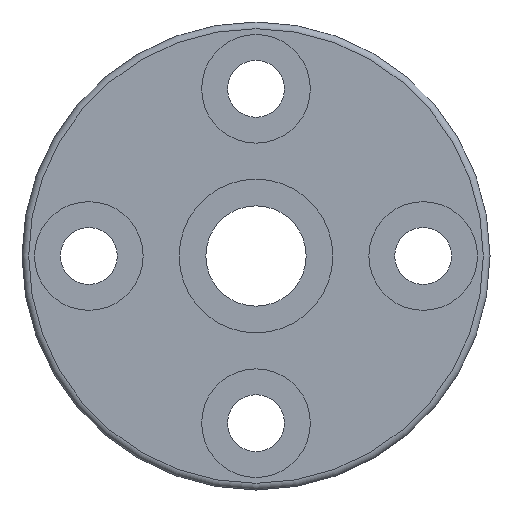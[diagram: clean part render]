
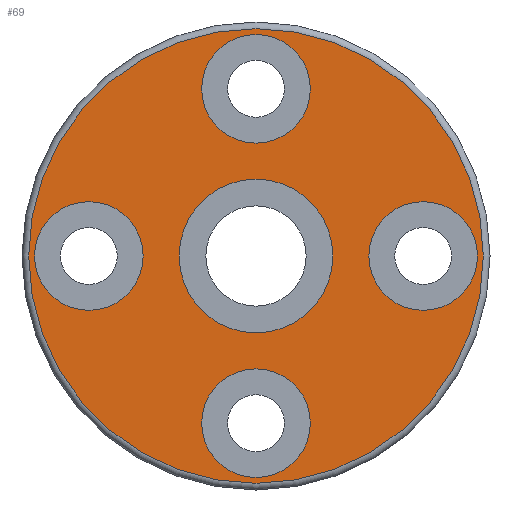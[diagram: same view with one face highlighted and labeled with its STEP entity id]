
A CAD part, left-side view. The second image highlights one B-rep face of the part: STEP entity #69.
In plain terms, the highlighted planar face has unit normal (-1, 0, 0).
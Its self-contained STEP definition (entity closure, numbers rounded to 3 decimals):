
#69 = ADVANCED_FACE( '', ( #162, #163, #164, #165, #166, #167 ), #168, .T. );
#162 = FACE_BOUND( '', #285, .T. );
#163 = FACE_BOUND( '', #286, .T. );
#164 = FACE_BOUND( '', #287, .T. );
#165 = FACE_BOUND( '', #288, .T. );
#166 = FACE_BOUND( '', #289, .T. );
#167 = FACE_OUTER_BOUND( '', #290, .T. );
#168 = PLANE( '', #291 );
#285 = EDGE_LOOP( '', ( #420 ) );
#286 = EDGE_LOOP( '', ( #421 ) );
#287 = EDGE_LOOP( '', ( #422 ) );
#288 = EDGE_LOOP( '', ( #423 ) );
#289 = EDGE_LOOP( '', ( #424 ) );
#290 = EDGE_LOOP( '', ( #425 ) );
#291 = AXIS2_PLACEMENT_3D( '', #426, #427, #428 );
#420 = ORIENTED_EDGE( '', *, *, #559, .T. );
#421 = ORIENTED_EDGE( '', *, *, #560, .T. );
#422 = ORIENTED_EDGE( '', *, *, #561, .T. );
#423 = ORIENTED_EDGE( '', *, *, #562, .T. );
#424 = ORIENTED_EDGE( '', *, *, #563, .F. );
#425 = ORIENTED_EDGE( '', *, *, #556, .T. );
#426 = CARTESIAN_POINT( '', ( 0., 9.2, 0. ) );
#427 = DIRECTION( '', ( -1., 0., 0. ) );
#428 = DIRECTION( '', ( 0., 1., 0. ) );
#556 = EDGE_CURVE( '', #630, #630, #631, .T. );
#559 = EDGE_CURVE( '', #635, #635, #636, .T. );
#560 = EDGE_CURVE( '', #637, #637, #638, .T. );
#561 = EDGE_CURVE( '', #639, #639, #640, .T. );
#562 = EDGE_CURVE( '', #641, #641, #642, .T. );
#563 = EDGE_CURVE( '', #643, #643, #644, .T. );
#630 = VERTEX_POINT( '', #719 );
#631 = CIRCLE( '', #720, 13.6 );
#635 = VERTEX_POINT( '', #724 );
#636 = CIRCLE( '', #725, 3.25 );
#637 = VERTEX_POINT( '', #726 );
#638 = CIRCLE( '', #727, 3.25 );
#639 = VERTEX_POINT( '', #728 );
#640 = CIRCLE( '', #729, 3.25 );
#641 = VERTEX_POINT( '', #730 );
#642 = CIRCLE( '', #731, 3.25 );
#643 = VERTEX_POINT( '', #732 );
#644 = CIRCLE( '', #733, 4.6 );
#719 = CARTESIAN_POINT( '', ( 0., 13.6, 0. ) );
#720 = AXIS2_PLACEMENT_3D( '', #815, #816, #817 );
#724 = CARTESIAN_POINT( '', ( 0., 0., -13.25 ) );
#725 = AXIS2_PLACEMENT_3D( '', #821, #822, #823 );
#726 = CARTESIAN_POINT( '', ( 0., 0., 13.25 ) );
#727 = AXIS2_PLACEMENT_3D( '', #824, #825, #826 );
#728 = CARTESIAN_POINT( '', ( 0., 13.25, 0. ) );
#729 = AXIS2_PLACEMENT_3D( '', #827, #828, #829 );
#730 = CARTESIAN_POINT( '', ( 0., -13.25, 0. ) );
#731 = AXIS2_PLACEMENT_3D( '', #830, #831, #832 );
#732 = CARTESIAN_POINT( '', ( 0., 4.6, 0. ) );
#733 = AXIS2_PLACEMENT_3D( '', #833, #834, #835 );
#815 = CARTESIAN_POINT( '', ( 0., 0., 0. ) );
#816 = DIRECTION( '', ( -1., 0., 0. ) );
#817 = DIRECTION( '', ( 0., 0., 1. ) );
#821 = CARTESIAN_POINT( '', ( 0., 0., -10. ) );
#822 = DIRECTION( '', ( 1., 0., 0. ) );
#823 = DIRECTION( '', ( 0., 0., -1. ) );
#824 = CARTESIAN_POINT( '', ( 0., 0., 10. ) );
#825 = DIRECTION( '', ( 1., 0., 0. ) );
#826 = DIRECTION( '', ( 0., 0., 1. ) );
#827 = CARTESIAN_POINT( '', ( 0., 10., 0. ) );
#828 = DIRECTION( '', ( 1., 0., 0. ) );
#829 = DIRECTION( '', ( 0., 1., 0. ) );
#830 = CARTESIAN_POINT( '', ( 0., -10., 0. ) );
#831 = DIRECTION( '', ( 1., 0., 0. ) );
#832 = DIRECTION( '', ( 0., -1., 0. ) );
#833 = CARTESIAN_POINT( '', ( 0., 0., 0. ) );
#834 = DIRECTION( '', ( -1., 0., 0. ) );
#835 = DIRECTION( '', ( 0., 1., 0. ) );
